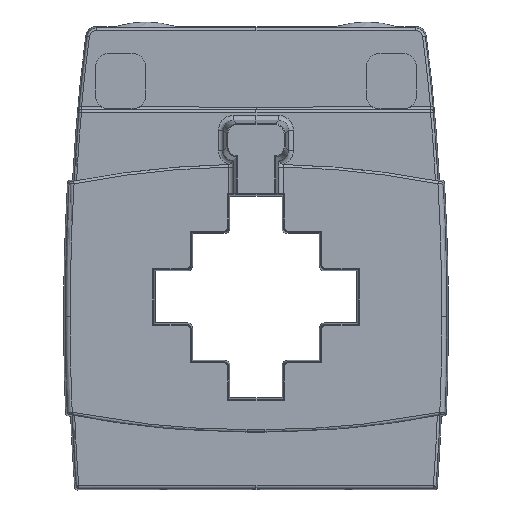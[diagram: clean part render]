
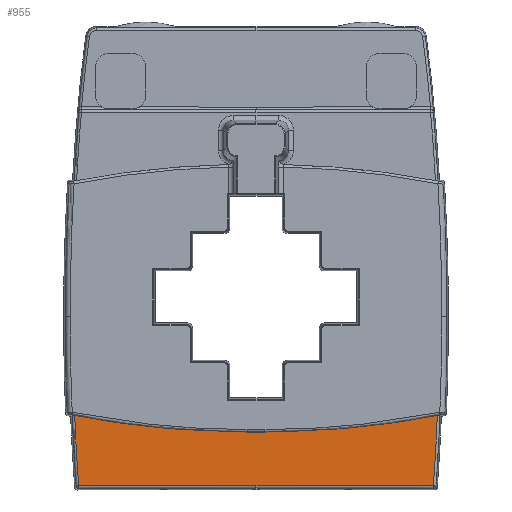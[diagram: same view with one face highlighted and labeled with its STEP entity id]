
A CAD part, front view. The second image highlights one B-rep face of the part: STEP entity #955.
In plain terms, the highlighted planar face has unit normal (0, -1, 0).
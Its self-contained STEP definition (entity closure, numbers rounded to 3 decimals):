
#213=B_SPLINE_CURVE_WITH_KNOTS('',3,(#9607,#9608,#9609,#9610),
 .UNSPECIFIED.,.F.,.F.,(4,4),(0.,1.),.UNSPECIFIED.);
#241=B_SPLINE_CURVE_WITH_KNOTS('',3,(#10179,#10180,#10181,#10182),
 .UNSPECIFIED.,.F.,.F.,(4,4),(0.,1.),.UNSPECIFIED.);
#552=CIRCLE('',#6817,375.154);
#553=CIRCLE('',#6818,375.154);
#955=ADVANCED_FACE('',(#1495),#1339,.T.);
#1339=PLANE('',#6819);
#1495=FACE_OUTER_BOUND('',#1910,.T.);
#1910=EDGE_LOOP('',(#2652,#2653,#2654,#2655,#2656,#2657,#2658));
#2652=ORIENTED_EDGE('',*,*,#5124,.F.);
#2653=ORIENTED_EDGE('',*,*,#5024,.F.);
#2654=ORIENTED_EDGE('',*,*,#5125,.F.);
#2655=ORIENTED_EDGE('',*,*,#4879,.T.);
#2656=ORIENTED_EDGE('',*,*,#5126,.T.);
#2657=ORIENTED_EDGE('',*,*,#5127,.T.);
#2658=ORIENTED_EDGE('',*,*,#5128,.F.);
#4289=VERTEX_POINT('',#9606);
#4290=VERTEX_POINT('',#9611);
#4391=VERTEX_POINT('',#10178);
#4392=VERTEX_POINT('',#10183);
#4474=VERTEX_POINT('',#10486);
#4475=VERTEX_POINT('',#10489);
#4476=VERTEX_POINT('',#10491);
#4879=EDGE_CURVE('',#4290,#4289,#213,.T.);
#5024=EDGE_CURVE('',#4391,#4392,#241,.T.);
#5124=EDGE_CURVE('',#4392,#4474,#552,.T.);
#5125=EDGE_CURVE('',#4290,#4391,#5973,.T.);
#5126=EDGE_CURVE('',#4289,#4475,#553,.T.);
#5127=EDGE_CURVE('',#4475,#4476,#5974,.T.);
#5128=EDGE_CURVE('',#4474,#4476,#5975,.T.);
#5973=LINE('',#10487,#6410);
#5974=LINE('',#10490,#6411);
#5975=LINE('',#10492,#6412);
#6410=VECTOR('',#7836,1.);
#6411=VECTOR('',#7839,1.);
#6412=VECTOR('',#7840,1.);
#6817=AXIS2_PLACEMENT_3D('',#10485,#7834,#7835);
#6818=AXIS2_PLACEMENT_3D('',#10488,#7837,#7838);
#6819=AXIS2_PLACEMENT_3D('',#10493,#7841,#7842);
#7834=DIRECTION('',(0.,1.,0.));
#7835=DIRECTION('',(0.,0.,1.));
#7836=DIRECTION('',(1.,0.,0.));
#7837=DIRECTION('',(0.,-1.,0.));
#7838=DIRECTION('',(0.,0.,1.));
#7839=DIRECTION('',(1.,0.,0.));
#7840=DIRECTION('',(-1.,0.,0.));
#7841=DIRECTION('',(0.,-1.,0.));
#7842=DIRECTION('',(0.,0.,1.));
#9606=CARTESIAN_POINT('',(-36.309,-18.5,-23.728));
#9607=CARTESIAN_POINT('',(-1.8,-18.5,-27.06));
#9608=CARTESIAN_POINT('',(-13.374,-18.5,-27.06));
#9609=CARTESIAN_POINT('',(-24.95,-18.5,-25.942));
#9610=CARTESIAN_POINT('',(-36.309,-18.5,-23.728));
#9611=CARTESIAN_POINT('',(-1.8,-18.5,-27.058));
#10178=CARTESIAN_POINT('',(1.8,-18.5,-27.058));
#10179=CARTESIAN_POINT('',(1.8,-18.5,-27.06));
#10180=CARTESIAN_POINT('',(13.374,-18.5,-27.06));
#10181=CARTESIAN_POINT('',(24.95,-18.5,-25.942));
#10182=CARTESIAN_POINT('',(36.309,-18.5,-23.728));
#10183=CARTESIAN_POINT('',(36.309,-18.5,-23.728));
#10485=CARTESIAN_POINT('',(-338.577,-18.5,-9.563));
#10486=CARTESIAN_POINT('',(35.509,-18.5,-37.844));
#10487=CARTESIAN_POINT('',(0.636,-18.5,-27.055));
#10488=CARTESIAN_POINT('',(338.577,-18.5,-9.563));
#10489=CARTESIAN_POINT('',(-35.509,-18.5,-37.844));
#10490=CARTESIAN_POINT('',(-1.8,-18.5,-37.839));
#10491=CARTESIAN_POINT('',(0.,-18.5,-37.838));
#10492=CARTESIAN_POINT('',(1.8,-18.5,-37.839));
#10493=CARTESIAN_POINT('',(-2.964,-18.5,4.058));
